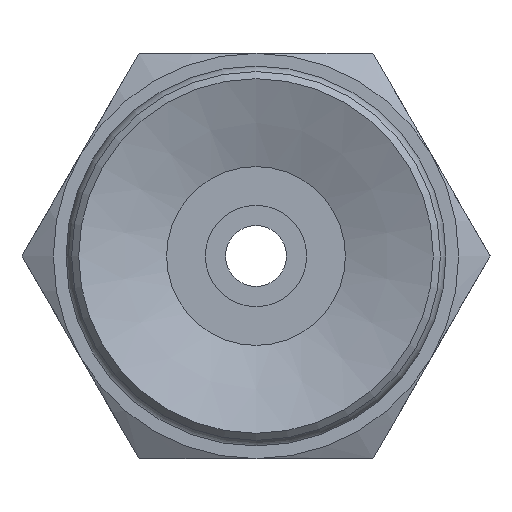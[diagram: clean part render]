
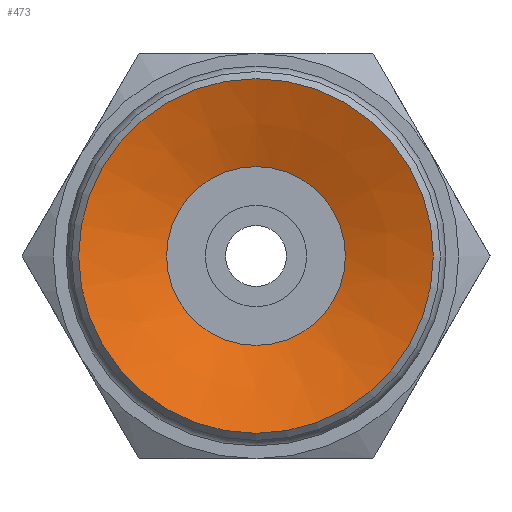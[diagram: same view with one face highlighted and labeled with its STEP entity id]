
A CAD part, front view. The second image highlights one B-rep face of the part: STEP entity #473.
In plain terms, the highlighted conical face has half-angle 70 degrees and reference radius 3.5 mm.
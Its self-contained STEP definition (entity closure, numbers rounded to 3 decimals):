
#473=ADVANCED_FACE('',(#679,#680),#681,.F.);
#679=FACE_BOUND('',#934,.T.);
#680=FACE_OUTER_BOUND('',#935,.T.);
#681=CONICAL_SURFACE('',#936,3.5,1.222);
#934=EDGE_LOOP('',(#1517));
#935=EDGE_LOOP('',(#1518));
#936=AXIS2_PLACEMENT_3D('',#1519,#1520,#1521);
#1517=ORIENTED_EDGE('',*,*,#1783,.F.);
#1518=ORIENTED_EDGE('',*,*,#1781,.T.);
#1519=CARTESIAN_POINT('',(0.0,0.0,0.0));
#1520=DIRECTION('',(-0.0,-1.0,0.));
#1521=DIRECTION('',(0.0,0.,-1.0));
#1781=EDGE_CURVE('',#2036,#2036,#2037,.T.);
#1783=EDGE_CURVE('',#2040,#2040,#2041,.T.);
#2036=VERTEX_POINT('',#2618);
#2037=CIRCLE('',#2619,3.5);
#2040=VERTEX_POINT('',#2622);
#2041=CIRCLE('',#2623,1.765);
#2618=CARTESIAN_POINT('',(0.0,0.,-3.5));
#2619=AXIS2_PLACEMENT_3D('',#2868,#2869,#2870);
#2622=CARTESIAN_POINT('',(0.0,0.632,-1.765));
#2623=AXIS2_PLACEMENT_3D('',#2874,#2875,#2876);
#2868=CARTESIAN_POINT('',(0.0,0.0,0.0));
#2869=DIRECTION('',(0.0,-1.0,0.));
#2870=DIRECTION('',(0.0,0.,-1.0));
#2874=CARTESIAN_POINT('',(0.0,0.632,0.0));
#2875=DIRECTION('',(0.0,-1.0,0.));
#2876=DIRECTION('',(0.0,0.,-1.0));
